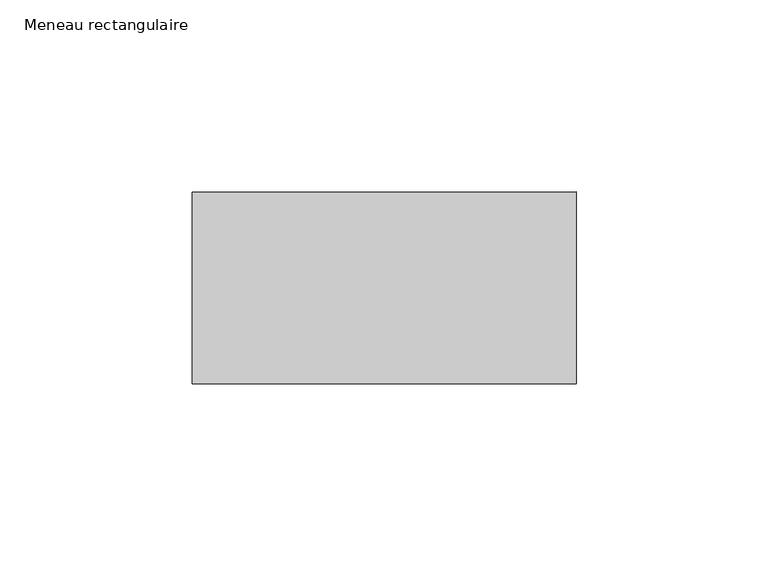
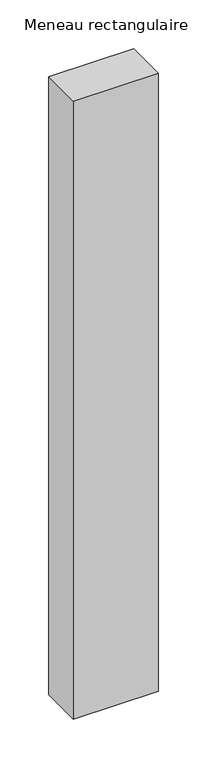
"""IFC4 building model written with IfcOpenShell, lengths in millimetres: member geometry, Meneau rectangulaire : 10x5cm aluminium laqué gris."""

from ifc_helpers import new_model, si_unit, frame, origin, place, context, project, spatial, polyline, outline, extrude, source, transform, mapped, element, save


def meneau_rectangulaire_e1c9c612(model_context):
    return source(origin(), model_context, "Body", "SweptSolid", [
        extrude(outline(polyline([(0.0, 25.0), (0.0, -25.0), (-100.0, -25.0), (-100.0, 25.0), (0.0, 25.0)])), frame((0.0, 0.0, -771.2233546), z_axis=(0.0, 0.0, 1.0), x_axis=(1.0, 0.0, 0.0)), (0.0, 0.0, 1.0), 771.2233546),
    ])


if __name__ == "__main__":
    model = new_model("IFC4")
    model_context = context("Model", 3, world=origin())
    ifc_project = project(units=[si_unit("LENGTHUNIT", "METRE", prefix="MILLI")], contexts=[model_context])
    site = spatial("IfcSite", under=ifc_project)
    building = spatial("IfcBuilding", under=site)
    placement = place(None, origin())
    meneau_rectangulaire_shape = meneau_rectangulaire_e1c9c612(model_context)
    element("IfcMember", 1, ObjectType="Meneau rectangulaire : 10x5cm aluminium laqué gris", at=placement, inside=building, context=model_context, shape_type="MappedRepresentation", body=[
        mapped(meneau_rectangulaire_shape, transform((0.0, 0.0, 0.0), x_axis=(1.0, 0.0, 0.0), y_axis=(0.0, 1.0, 0.0), z_axis=(0.0, 0.0, 1.0))),
    ])
    save(model, "model.ifc")
